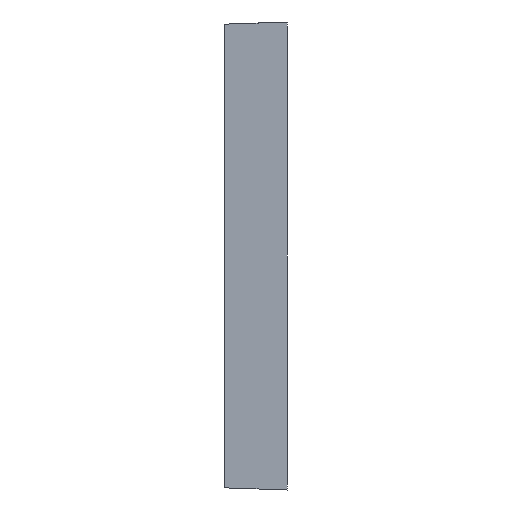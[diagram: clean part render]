
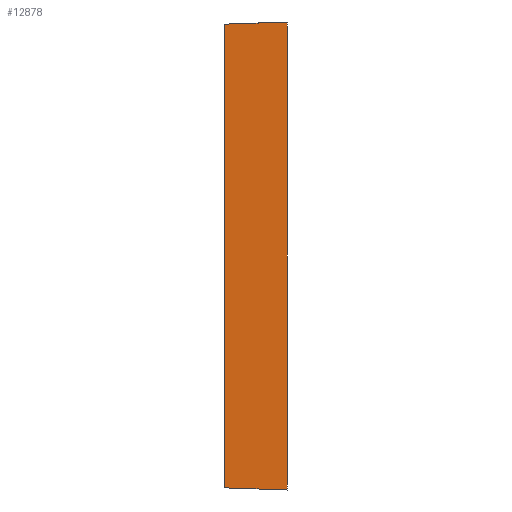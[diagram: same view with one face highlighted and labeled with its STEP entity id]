
A CAD part, left-side view. The second image highlights one B-rep face of the part: STEP entity #12878.
In plain terms, the highlighted planar face has unit normal (-0.999, 0.035, 0).
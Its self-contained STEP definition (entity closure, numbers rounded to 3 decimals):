
#644 = DIRECTION ( 'NONE',  ( -0.035, -0.999, 0. ) ) ;
#676 = VECTOR ( 'NONE', #8638, 1000. ) ;
#1600 = CARTESIAN_POINT ( 'NONE',  ( -300.7, 0., -215.7 ) ) ;
#2039 = DIRECTION ( 'NONE',  ( -0.035, -0.999, -0.035 ) ) ;
#3420 = ORIENTED_EDGE ( 'NONE', *, *, #26731, .F. ) ;
#4019 = VECTOR ( 'NONE', #29520, 1000. ) ;
#4208 = EDGE_CURVE ( 'NONE', #28706, #22789, #29848, .T. ) ;
#5026 = CARTESIAN_POINT ( 'NONE',  ( -300.7, 0., -215.7 ) ) ;
#5947 = FACE_OUTER_BOUND ( 'NONE', #33617, .T. ) ;
#6097 = CARTESIAN_POINT ( 'NONE',  ( -300.7, 0., 215.7 ) ) ;
#7132 = CARTESIAN_POINT ( 'NONE',  ( -298.696, 57.4, 213.696 ) ) ;
#7324 = AXIS2_PLACEMENT_3D ( 'NONE', #21676, #26649, #644 ) ;
#8638 = DIRECTION ( 'NONE',  ( -0.035, -0.999, 0.035 ) ) ;
#9846 = CARTESIAN_POINT ( 'NONE',  ( -300.7, 0., 215.7 ) ) ;
#11547 = ORIENTED_EDGE ( 'NONE', *, *, #28468, .F. ) ;
#12878 = ADVANCED_FACE ( 'NONE', ( #5947 ), #24080, .T. ) ;
#13314 = ORIENTED_EDGE ( 'NONE', *, *, #20011, .T. ) ;
#14542 = ORIENTED_EDGE ( 'NONE', *, *, #4208, .T. ) ;
#15759 = VECTOR ( 'NONE', #2039, 1000. ) ;
#20011 = EDGE_CURVE ( 'NONE', #31224, #28706, #30797, .T. ) ;
#21676 = CARTESIAN_POINT ( 'NONE',  ( -300.7, 0., -215.7 ) ) ;
#22789 = VERTEX_POINT ( 'NONE', #9846 ) ;
#24080 = PLANE ( 'NONE',  #7324 ) ;
#26649 = DIRECTION ( 'NONE',  ( -0.999, 0.035, 0. ) ) ;
#26731 = EDGE_CURVE ( 'NONE', #31224, #30295, #29167, .T. ) ;
#26934 = CARTESIAN_POINT ( 'NONE',  ( -298.696, 57.4, -215.7 ) ) ;
#28215 = VECTOR ( 'NONE', #30346, 1000. ) ;
#28468 = EDGE_CURVE ( 'NONE', #30295, #22789, #32106, .T. ) ;
#28706 = VERTEX_POINT ( 'NONE', #5026 ) ;
#29167 = LINE ( 'NONE', #26934, #4019 ) ;
#29520 = DIRECTION ( 'NONE',  ( 0., 0., 1. ) ) ;
#29848 = LINE ( 'NONE', #1600, #28215 ) ;
#30295 = VERTEX_POINT ( 'NONE', #7132 ) ;
#30346 = DIRECTION ( 'NONE',  ( 0., 0., 1. ) ) ;
#30630 = CARTESIAN_POINT ( 'NONE',  ( -300.7, 0., -215.7 ) ) ;
#30797 = LINE ( 'NONE', #30630, #15759 ) ;
#31224 = VERTEX_POINT ( 'NONE', #32113 ) ;
#32106 = LINE ( 'NONE', #6097, #676 ) ;
#32113 = CARTESIAN_POINT ( 'NONE',  ( -298.696, 57.4, -213.696 ) ) ;
#33617 = EDGE_LOOP ( 'NONE', ( #14542, #11547, #3420, #13314 ) ) ;
